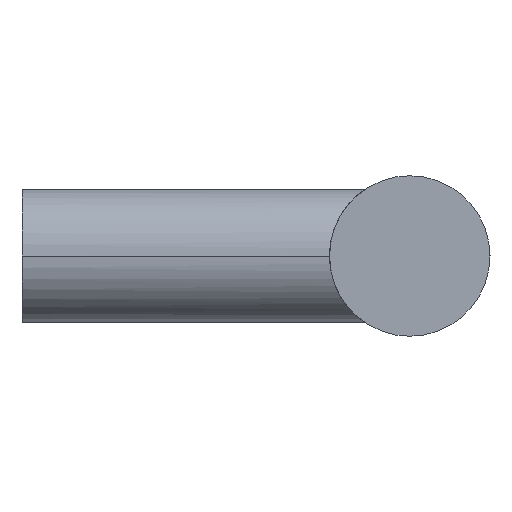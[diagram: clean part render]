
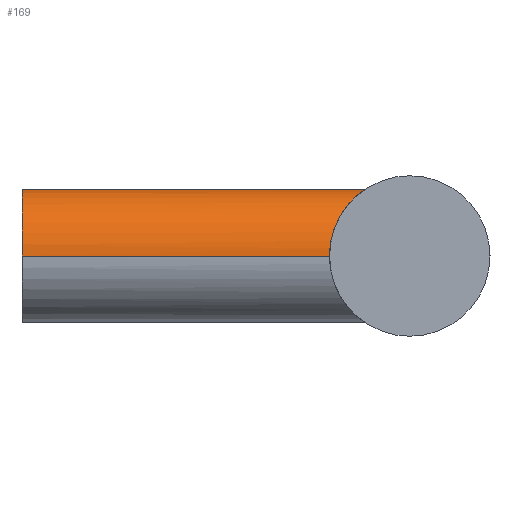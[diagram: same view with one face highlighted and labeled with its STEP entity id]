
A CAD part, left-side view. The second image highlights one B-rep face of the part: STEP entity #169.
In plain terms, the highlighted cylindrical face has radius 5 mm (diameter 10 mm), a partial arc.
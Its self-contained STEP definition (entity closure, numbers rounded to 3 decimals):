
#103 = VERTEX_POINT( '', #261 );
#109 = EDGE_CURVE( '', #207, #123, #268, .T. );
#123 = VERTEX_POINT( '', #286 );
#125 = EDGE_CURVE( '', #221, #235, #288, .T. );
#139 = EDGE_CURVE( '', #235, #103, #305, .T. );
#169 = ADVANCED_FACE( '', ( #335 ), #336, .T. );
#197 = EDGE_CURVE( '', #103, #207, #368, .T. );
#207 = VERTEX_POINT( '', #380 );
#221 = VERTEX_POINT( '', #399 );
#227 = EDGE_CURVE( '', #123, #221, #405, .T. );
#235 = VERTEX_POINT( '', #413 );
#261 = CARTESIAN_POINT( '', ( -5., 0., 0. ) );
#268 = LINE( '', #442, #443 );
#286 = CARTESIAN_POINT( '', ( 5., -23., 0. ) );
#288 = B_SPLINE_CURVE_WITH_KNOTS( '', 3, ( #500, #501, #502, #503, #504, #505, #506, #507, #508, #509, #510, #511, #512, #513, #514, #515, #516, #517 ), .UNSPECIFIED., .F., .F., ( 4, 2, 2, 2, 2, 2, 2, 2, 4 ), ( 0., 1.041, 2.083, 3.124, 4.165, 5.164, 6.163, 7.162, 8.161 ), .UNSPECIFIED. );
#305 = LINE( '', #538, #539 );
#335 = FACE_OUTER_BOUND( '', #614, .T. );
#336 = CYLINDRICAL_SURFACE( '', #615, 5. );
#368 = CIRCLE( '', #690, 5. );
#380 = CARTESIAN_POINT( '', ( 5., 0., 0. ) );
#399 = CARTESIAN_POINT( '', ( 0., -25.683, 5. ) );
#405 = B_SPLINE_CURVE_WITH_KNOTS( '', 3, ( #731, #732, #733, #734, #735, #736, #737, #738, #739, #740, #741, #742, #743, #744, #745, #746, #747, #748 ), .UNSPECIFIED., .F., .F., ( 4, 2, 2, 2, 2, 2, 2, 2, 4 ), ( 24.483, 25.482, 26.481, 27.479, 28.478, 29.52, 30.561, 31.602, 32.643 ), .UNSPECIFIED. );
#413 = CARTESIAN_POINT( '', ( -5., -23., 0. ) );
#442 = CARTESIAN_POINT( '', ( 5., 0., 0. ) );
#443 = VECTOR( '', #776, 1. );
#500 = CARTESIAN_POINT( '', ( 0., -25.683, 5. ) );
#501 = CARTESIAN_POINT( '', ( -0.347, -25.683, 5. ) );
#502 = CARTESIAN_POINT( '', ( -0.687, -25.627, 4.964 ) );
#503 = CARTESIAN_POINT( '', ( -1.343, -25.436, 4.828 ) );
#504 = CARTESIAN_POINT( '', ( -1.659, -25.301, 4.728 ) );
#505 = CARTESIAN_POINT( '', ( -2.259, -24.995, 4.472 ) );
#506 = CARTESIAN_POINT( '', ( -2.544, -24.825, 4.316 ) );
#507 = CARTESIAN_POINT( '', ( -3.073, -24.483, 3.957 ) );
#508 = CARTESIAN_POINT( '', ( -3.317, -24.311, 3.754 ) );
#509 = CARTESIAN_POINT( '', ( -3.745, -24., 3.326 ) );
#510 = CARTESIAN_POINT( '', ( -3.946, -23.847, 3.088 ) );
#511 = CARTESIAN_POINT( '', ( -4.306, -23.566, 2.561 ) );
#512 = CARTESIAN_POINT( '', ( -4.467, -23.437, 2.272 ) );
#513 = CARTESIAN_POINT( '', ( -4.728, -23.225, 1.659 ) );
#514 = CARTESIAN_POINT( '', ( -4.83, -23.141, 1.335 ) );
#515 = CARTESIAN_POINT( '', ( -4.966, -23.028, 0.672 ) );
#516 = CARTESIAN_POINT( '', ( -5., -23., 0.333 ) );
#517 = CARTESIAN_POINT( '', ( -5., -23., 0. ) );
#538 = CARTESIAN_POINT( '', ( -5., 0., 0. ) );
#539 = VECTOR( '', #827, 1. );
#614 = EDGE_LOOP( '', ( #841, #842, #843, #844, #845 ) );
#615 = AXIS2_PLACEMENT_3D( '', #846, #847, #848 );
#690 = AXIS2_PLACEMENT_3D( '', #890, #891, #892 );
#731 = CARTESIAN_POINT( '', ( 5., -23., 0. ) );
#732 = CARTESIAN_POINT( '', ( 5., -23., 0.333 ) );
#733 = CARTESIAN_POINT( '', ( 4.966, -23.028, 0.672 ) );
#734 = CARTESIAN_POINT( '', ( 4.83, -23.141, 1.335 ) );
#735 = CARTESIAN_POINT( '', ( 4.728, -23.225, 1.659 ) );
#736 = CARTESIAN_POINT( '', ( 4.467, -23.437, 2.272 ) );
#737 = CARTESIAN_POINT( '', ( 4.306, -23.566, 2.561 ) );
#738 = CARTESIAN_POINT( '', ( 3.946, -23.847, 3.088 ) );
#739 = CARTESIAN_POINT( '', ( 3.745, -24., 3.326 ) );
#740 = CARTESIAN_POINT( '', ( 3.317, -24.311, 3.754 ) );
#741 = CARTESIAN_POINT( '', ( 3.073, -24.483, 3.957 ) );
#742 = CARTESIAN_POINT( '', ( 2.544, -24.825, 4.316 ) );
#743 = CARTESIAN_POINT( '', ( 2.259, -24.995, 4.472 ) );
#744 = CARTESIAN_POINT( '', ( 1.659, -25.301, 4.728 ) );
#745 = CARTESIAN_POINT( '', ( 1.343, -25.436, 4.828 ) );
#746 = CARTESIAN_POINT( '', ( 0.687, -25.627, 4.964 ) );
#747 = CARTESIAN_POINT( '', ( 0.347, -25.683, 5. ) );
#748 = CARTESIAN_POINT( '', ( 0., -25.683, 5. ) );
#776 = DIRECTION( '', ( 0., -1., 0. ) );
#827 = DIRECTION( '', ( 0., 1., 0. ) );
#841 = ORIENTED_EDGE( '', *, *, #109, .F. );
#842 = ORIENTED_EDGE( '', *, *, #197, .F. );
#843 = ORIENTED_EDGE( '', *, *, #139, .F. );
#844 = ORIENTED_EDGE( '', *, *, #125, .F. );
#845 = ORIENTED_EDGE( '', *, *, #227, .F. );
#846 = CARTESIAN_POINT( '', ( 0., 0., 0. ) );
#847 = DIRECTION( '', ( 0., 1., 0. ) );
#848 = DIRECTION( '', ( 1., 0., 0. ) );
#890 = CARTESIAN_POINT( '', ( 0., 0., 0. ) );
#891 = DIRECTION( '', ( 0., 1., 0. ) );
#892 = DIRECTION( '', ( 1., 0., 0. ) );
